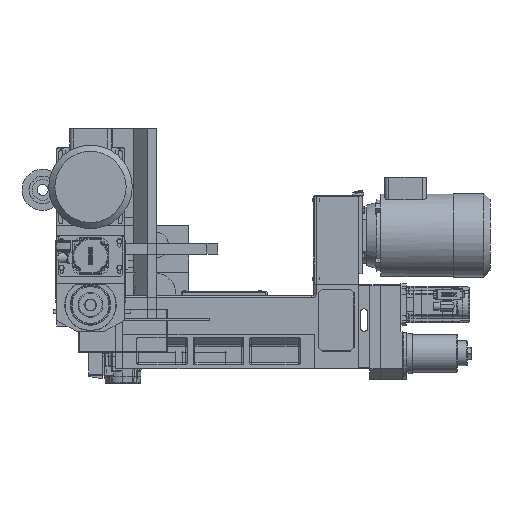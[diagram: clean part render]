
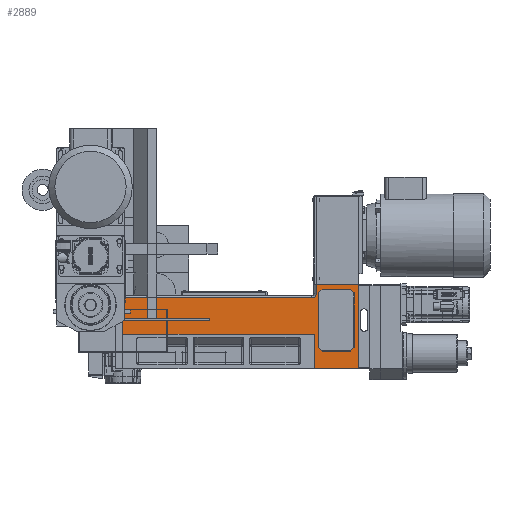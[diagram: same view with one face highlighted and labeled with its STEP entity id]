
A CAD part, left-side view. The second image highlights one B-rep face of the part: STEP entity #2889.
In plain terms, the highlighted planar face has unit normal (-1, 0, 0) as drawn and (0, 1, 0) by its records, which use the part's own axes.
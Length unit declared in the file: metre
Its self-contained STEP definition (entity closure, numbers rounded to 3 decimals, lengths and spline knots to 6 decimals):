
#2889 = ADVANCED_FACE( '', ( #4779 ), #4780, .T. );
#4779 = FACE_OUTER_BOUND( '', #8622, .T. );
#4780 = PLANE( '', #8623 );
#8622 = EDGE_LOOP( '', ( #24751, #24752, #24753, #24754, #24755, #24756, #24757, #24758, #24759 ) );
#8623 = AXIS2_PLACEMENT_3D( '', #24760, #24761, #24762 );
#24751 = ORIENTED_EDGE( '', *, *, #35661, .T. );
#24752 = ORIENTED_EDGE( '', *, *, #35662, .T. );
#24753 = ORIENTED_EDGE( '', *, *, #35663, .T. );
#24754 = ORIENTED_EDGE( '', *, *, #35664, .T. );
#24755 = ORIENTED_EDGE( '', *, *, #35665, .F. );
#24756 = ORIENTED_EDGE( '', *, *, #35666, .F. );
#24757 = ORIENTED_EDGE( '', *, *, #35667, .F. );
#24758 = ORIENTED_EDGE( '', *, *, #35649, .F. );
#24759 = ORIENTED_EDGE( '', *, *, #35668, .T. );
#24760 = CARTESIAN_POINT( '', ( -0.6225, 0.176111, 0. ) );
#24761 = DIRECTION( '', ( 0., 1., 0. ) );
#24762 = DIRECTION( '', ( 0., 0., 1. ) );
#35649 = EDGE_CURVE( '', #39442, #39444, #39445, .T. );
#35661 = EDGE_CURVE( '', #39463, #39464, #39465, .T. );
#35662 = EDGE_CURVE( '', #39464, #39466, #39467, .T. );
#35663 = EDGE_CURVE( '', #39466, #39468, #39469, .T. );
#35664 = EDGE_CURVE( '', #39468, #39470, #39471, .T. );
#35665 = EDGE_CURVE( '', #39472, #39470, #39473, .T. );
#35666 = EDGE_CURVE( '', #39474, #39472, #39475, .T. );
#35667 = EDGE_CURVE( '', #39444, #39474, #39476, .T. );
#35668 = EDGE_CURVE( '', #39442, #39463, #39477, .T. );
#39442 = VERTEX_POINT( '', #45734 );
#39444 = VERTEX_POINT( '', #45737 );
#39445 = LINE( '', #45738, #45739 );
#39463 = VERTEX_POINT( '', #45768 );
#39464 = VERTEX_POINT( '', #45769 );
#39465 = LINE( '', #45770, #45771 );
#39466 = VERTEX_POINT( '', #45772 );
#39467 = LINE( '', #45773, #45774 );
#39468 = VERTEX_POINT( '', #45775 );
#39469 = LINE( '', #45776, #45777 );
#39470 = VERTEX_POINT( '', #45778 );
#39471 = LINE( '', #45779, #45780 );
#39472 = VERTEX_POINT( '', #45781 );
#39473 = LINE( '', #45782, #45783 );
#39474 = VERTEX_POINT( '', #45784 );
#39475 = CIRCLE( '', #45785, 0.011 );
#39476 = LINE( '', #45786, #45787 );
#39477 = LINE( '', #45788, #45789 );
#45734 = CARTESIAN_POINT( '', ( 0.005, 0.176111, 0.091 ) );
#45737 = CARTESIAN_POINT( '', ( 0.005, 0.176111, 0.188 ) );
#45738 = CARTESIAN_POINT( '', ( 0.005, 0.176111, 0. ) );
#45739 = VECTOR( '', #58006, 1. );
#45768 = CARTESIAN_POINT( '', ( -0.505, 0.176111, 0.091 ) );
#45769 = CARTESIAN_POINT( '', ( -0.505, 0.176111, 0. ) );
#45770 = CARTESIAN_POINT( '', ( -0.505, 0.176111, 0. ) );
#45771 = VECTOR( '', #58018, 1. );
#45772 = CARTESIAN_POINT( '', ( -0.6225, 0.176111, 0. ) );
#45773 = CARTESIAN_POINT( '', ( 0.005, 0.176111, 0. ) );
#45774 = VECTOR( '', #58019, 1. );
#45775 = CARTESIAN_POINT( '', ( -0.6225, 0.176111, 0.224 ) );
#45776 = CARTESIAN_POINT( '', ( -0.6225, 0.176111, 0. ) );
#45777 = VECTOR( '', #58020, 1. );
#45778 = CARTESIAN_POINT( '', ( -0.5095, 0.176111, 0.224 ) );
#45779 = CARTESIAN_POINT( '', ( 0.005, 0.176111, 0.224 ) );
#45780 = VECTOR( '', #58021, 1. );
#45781 = CARTESIAN_POINT( '', ( -0.5095, 0.176111, 0.199 ) );
#45782 = CARTESIAN_POINT( '', ( -0.5095, 0.176111, 0.112 ) );
#45783 = VECTOR( '', #58022, 1. );
#45784 = CARTESIAN_POINT( '', ( -0.4985, 0.176111, 0.188 ) );
#45785 = AXIS2_PLACEMENT_3D( '', #58023, #58024, #58025 );
#45786 = CARTESIAN_POINT( '', ( -0.435875, 0.176111, 0.188 ) );
#45787 = VECTOR( '', #58026, 1. );
#45788 = CARTESIAN_POINT( '', ( -0.56375, 0.176111, 0.091 ) );
#45789 = VECTOR( '', #58027, 1. );
#58006 = DIRECTION( '', ( 0., 0., 1. ) );
#58018 = DIRECTION( '', ( 0., 0., -1. ) );
#58019 = DIRECTION( '', ( -1., 0., 0. ) );
#58020 = DIRECTION( '', ( 0., 0., 1. ) );
#58021 = DIRECTION( '', ( 1., 0., 0. ) );
#58022 = DIRECTION( '', ( 0., 0., 1. ) );
#58023 = CARTESIAN_POINT( '', ( -0.4985, 0.176111, 0.199 ) );
#58024 = DIRECTION( '', ( 0., 1., 0. ) );
#58025 = DIRECTION( '', ( -0.707, 0., -0.707 ) );
#58026 = DIRECTION( '', ( -1., 0., 0. ) );
#58027 = DIRECTION( '', ( -1., 0., 0. ) );
